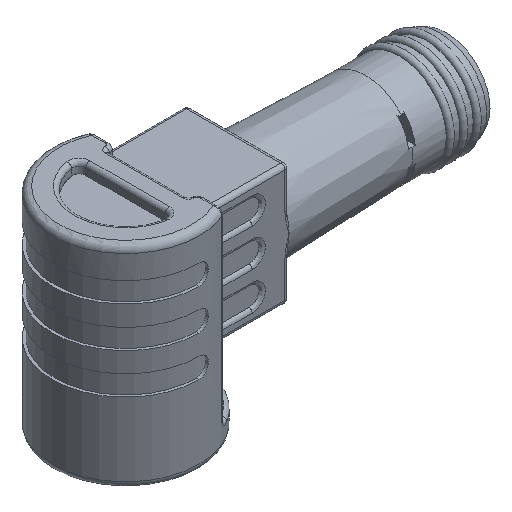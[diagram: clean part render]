
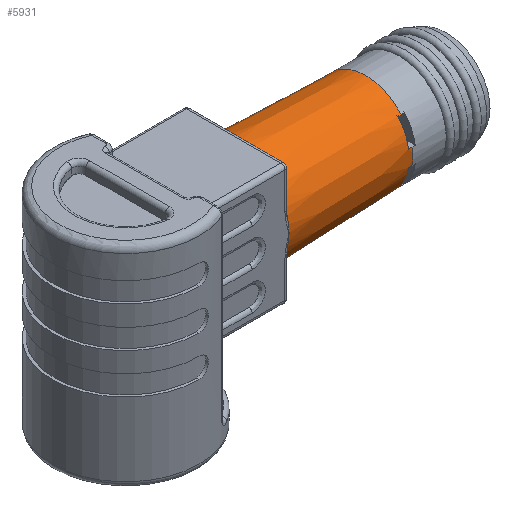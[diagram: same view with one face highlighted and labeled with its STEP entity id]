
A CAD part, isometric view. The second image highlights one B-rep face of the part: STEP entity #5931.
In plain terms, the highlighted conical face has half-angle 1.827 degrees and reference radius 3.651 mm.
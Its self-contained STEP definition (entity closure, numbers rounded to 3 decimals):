
#4858=CARTESIAN_POINT('',(8.347,-3.503,-3.02));
#4859=VERTEX_POINT('',#4858);
#4883=CARTESIAN_POINT('',(8.347,3.503,-3.02));
#4884=VERTEX_POINT('',#4883);
#5050=CARTESIAN_POINT('',(8.347,-3.803,-4.465));
#5051=VERTEX_POINT('',#5050);
#5059=CARTESIAN_POINT('',(8.347,0.0,-4.5));
#5060=DIRECTION('',(-1.0,0.0,0.0));
#5061=DIRECTION('',(0.0,0.0,-1.0));
#5062=AXIS2_PLACEMENT_3D('',#5059,#5060,#5061);
#5063=CIRCLE('',#5062,3.803);
#5064=EDGE_CURVE('',#5051,#4859,#5063,.T.);
#5172=CARTESIAN_POINT('',(8.347,3.803,-4.465));
#5173=VERTEX_POINT('',#5172);
#5197=CARTESIAN_POINT('',(8.347,0.0,-4.5));
#5198=DIRECTION('',(-1.0,0.0,0.0));
#5199=DIRECTION('',(0.0,0.0,-1.0));
#5200=AXIS2_PLACEMENT_3D('',#5197,#5198,#5199);
#5201=CIRCLE('',#5200,3.803);
#5202=EDGE_CURVE('',#4884,#5173,#5201,.T.);
#5245=CARTESIAN_POINT('',(8.347,-3.503,-5.98));
#5246=VERTEX_POINT('',#5245);
#5324=CARTESIAN_POINT('',(8.347,3.503,-5.98));
#5325=VERTEX_POINT('',#5324);
#5494=CARTESIAN_POINT('',(8.347,-3.803,-4.535));
#5495=VERTEX_POINT('',#5494);
#5505=CARTESIAN_POINT('',(8.347,0.0,-4.5));
#5506=DIRECTION('',(-1.0,0.0,0.0));
#5507=DIRECTION('',(0.0,0.0,-1.0));
#5508=AXIS2_PLACEMENT_3D('',#5505,#5506,#5507);
#5509=CIRCLE('',#5508,3.803);
#5510=EDGE_CURVE('',#5246,#5495,#5509,.T.);
#5608=CARTESIAN_POINT('',(8.347,3.803,-4.535));
#5609=VERTEX_POINT('',#5608);
#5617=CARTESIAN_POINT('',(8.347,0.0,-4.5));
#5618=DIRECTION('',(-1.0,0.0,0.0));
#5619=DIRECTION('',(0.0,0.0,-1.0));
#5620=AXIS2_PLACEMENT_3D('',#5617,#5618,#5619);
#5621=CIRCLE('',#5620,3.803);
#5622=EDGE_CURVE('',#5609,#5325,#5621,.T.);
#5658=CARTESIAN_POINT('',(8.347,-3.803,-4.535));
#5659=CARTESIAN_POINT('',(8.353,-3.803,-4.512));
#5660=CARTESIAN_POINT('',(8.353,-3.803,-4.487));
#5661=CARTESIAN_POINT('',(8.347,-3.803,-4.465));
#5662=B_SPLINE_CURVE_WITH_KNOTS('',3,(#5658,#5659,#5660,#5661),.UNSPECIFIED.,.F.,.U.,(4,4),(0.881,0.888),.UNSPECIFIED.);
#5663=EDGE_CURVE('',#5495,#5051,#5662,.T.);
#5699=CARTESIAN_POINT('',(8.347,3.803,-4.465));
#5700=CARTESIAN_POINT('',(8.353,3.803,-4.487));
#5701=CARTESIAN_POINT('',(8.353,3.803,-4.512));
#5702=CARTESIAN_POINT('',(8.347,3.803,-4.535));
#5703=B_SPLINE_CURVE_WITH_KNOTS('',3,(#5699,#5700,#5701,#5702),.UNSPECIFIED.,.F.,.U.,(4,4),(-0.888,-0.882),.UNSPECIFIED.);
#5704=EDGE_CURVE('',#5173,#5609,#5703,.T.);
#5762=CARTESIAN_POINT('',(8.347,0.0,-4.5));
#5763=DIRECTION('',(-1.0,0.0,0.0));
#5764=DIRECTION('',(0.0,0.0,-1.0));
#5765=AXIS2_PLACEMENT_3D('',#5762,#5763,#5764);
#5766=CIRCLE('',#5765,3.803);
#5767=EDGE_CURVE('',#5325,#5246,#5766,.T.);
#5772=CARTESIAN_POINT('',(13.097,0.0,-4.5));
#5773=DIRECTION('',(-1.0,0.0,0.));
#5774=DIRECTION('',(0.0,0.0,-1.0));
#5775=AXIS2_PLACEMENT_3D('',#5772,#5773,#5774);
#5776=CONICAL_SURFACE('',#5775,3.652,1.827);
#5777=CARTESIAN_POINT('',(17.847,-3.448,-3.9));
#5778=VERTEX_POINT('',#5777);
#5779=CARTESIAN_POINT('',(17.597,-3.456,-3.9));
#5780=VERTEX_POINT('',#5779);
#5781=CARTESIAN_POINT('',(17.847,-3.448,-3.9));
#5782=DIRECTION('',(-0.999,-0.032,0.0));
#5783=VECTOR('',#5782,0.25);
#5784=LINE('',#5781,#5783);
#5785=EDGE_CURVE('',#5778,#5780,#5784,.T.);
#5786=ORIENTED_EDGE('',*,*,#5785,.T.);
#5787=CARTESIAN_POINT('',(17.597,-2.649,-2.2));
#5788=VERTEX_POINT('',#5787);
#5789=CARTESIAN_POINT('',(17.597,0.0,-4.5));
#5790=DIRECTION('',(-1.0,0.0,0.0));
#5791=DIRECTION('',(0.0,0.0,-1.0));
#5792=AXIS2_PLACEMENT_3D('',#5789,#5790,#5791);
#5793=CIRCLE('',#5792,3.508);
#5794=EDGE_CURVE('',#5780,#5788,#5793,.T.);
#5795=ORIENTED_EDGE('',*,*,#5794,.T.);
#5796=CARTESIAN_POINT('',(17.847,-2.638,-2.2));
#5797=VERTEX_POINT('',#5796);
#5798=CARTESIAN_POINT('',(17.597,-2.649,-2.2));
#5799=DIRECTION('',(0.999,0.042,0.));
#5800=VECTOR('',#5799,0.25);
#5801=LINE('',#5798,#5800);
#5802=EDGE_CURVE('',#5788,#5797,#5801,.T.);
#5803=ORIENTED_EDGE('',*,*,#5802,.T.);
#5804=CARTESIAN_POINT('',(17.847,2.638,-2.2));
#5805=VERTEX_POINT('',#5804);
#5806=CARTESIAN_POINT('',(17.847,0.0,-4.5));
#5807=DIRECTION('',(1.0,0.0,0.0));
#5808=DIRECTION('',(0.0,0.0,-1.0));
#5809=AXIS2_PLACEMENT_3D('',#5806,#5807,#5808);
#5810=CIRCLE('',#5809,3.5);
#5811=EDGE_CURVE('',#5805,#5797,#5810,.T.);
#5812=ORIENTED_EDGE('',*,*,#5811,.F.);
#5813=CARTESIAN_POINT('',(17.597,2.649,-2.2));
#5814=VERTEX_POINT('',#5813);
#5815=CARTESIAN_POINT('',(17.847,2.638,-2.2));
#5816=DIRECTION('',(-0.999,0.042,0.));
#5817=VECTOR('',#5816,0.25);
#5818=LINE('',#5815,#5817);
#5819=EDGE_CURVE('',#5805,#5814,#5818,.T.);
#5820=ORIENTED_EDGE('',*,*,#5819,.T.);
#5821=CARTESIAN_POINT('',(17.597,3.456,-3.9));
#5822=VERTEX_POINT('',#5821);
#5823=CARTESIAN_POINT('',(17.597,0.0,-4.5));
#5824=DIRECTION('',(-1.0,0.0,0.0));
#5825=DIRECTION('',(0.0,0.0,-1.0));
#5826=AXIS2_PLACEMENT_3D('',#5823,#5824,#5825);
#5827=CIRCLE('',#5826,3.508);
#5828=EDGE_CURVE('',#5814,#5822,#5827,.T.);
#5829=ORIENTED_EDGE('',*,*,#5828,.T.);
#5830=CARTESIAN_POINT('',(17.847,3.448,-3.9));
#5831=VERTEX_POINT('',#5830);
#5832=CARTESIAN_POINT('',(17.597,3.456,-3.9));
#5833=DIRECTION('',(0.999,-0.032,0.0));
#5834=VECTOR('',#5833,0.25);
#5835=LINE('',#5832,#5834);
#5836=EDGE_CURVE('',#5822,#5831,#5835,.T.);
#5837=ORIENTED_EDGE('',*,*,#5836,.T.);
#5838=CARTESIAN_POINT('',(17.847,3.448,-5.1));
#5839=VERTEX_POINT('',#5838);
#5840=CARTESIAN_POINT('',(17.847,0.0,-4.5));
#5841=DIRECTION('',(1.0,0.0,0.0));
#5842=DIRECTION('',(0.0,0.0,-1.0));
#5843=AXIS2_PLACEMENT_3D('',#5840,#5841,#5842);
#5844=CIRCLE('',#5843,3.5);
#5845=EDGE_CURVE('',#5839,#5831,#5844,.T.);
#5846=ORIENTED_EDGE('',*,*,#5845,.F.);
#5847=CARTESIAN_POINT('',(17.597,3.456,-5.1));
#5848=VERTEX_POINT('',#5847);
#5849=CARTESIAN_POINT('',(17.847,3.448,-5.1));
#5850=DIRECTION('',(-0.999,0.032,0.));
#5851=VECTOR('',#5850,0.25);
#5852=LINE('',#5849,#5851);
#5853=EDGE_CURVE('',#5839,#5848,#5852,.T.);
#5854=ORIENTED_EDGE('',*,*,#5853,.T.);
#5855=CARTESIAN_POINT('',(17.597,2.649,-6.8));
#5856=VERTEX_POINT('',#5855);
#5857=CARTESIAN_POINT('',(17.597,0.0,-4.5));
#5858=DIRECTION('',(-1.0,0.0,0.0));
#5859=DIRECTION('',(0.0,0.0,-1.0));
#5860=AXIS2_PLACEMENT_3D('',#5857,#5858,#5859);
#5861=CIRCLE('',#5860,3.508);
#5862=EDGE_CURVE('',#5848,#5856,#5861,.T.);
#5863=ORIENTED_EDGE('',*,*,#5862,.T.);
#5864=CARTESIAN_POINT('',(17.847,2.638,-6.8));
#5865=VERTEX_POINT('',#5864);
#5866=CARTESIAN_POINT('',(17.597,2.649,-6.8));
#5867=DIRECTION('',(0.999,-0.042,0.0));
#5868=VECTOR('',#5867,0.25);
#5869=LINE('',#5866,#5868);
#5870=EDGE_CURVE('',#5856,#5865,#5869,.T.);
#5871=ORIENTED_EDGE('',*,*,#5870,.T.);
#5872=CARTESIAN_POINT('',(17.847,-2.638,-6.8));
#5873=VERTEX_POINT('',#5872);
#5874=CARTESIAN_POINT('',(17.847,0.0,-4.5));
#5875=DIRECTION('',(1.0,0.0,0.0));
#5876=DIRECTION('',(0.0,0.0,-1.0));
#5877=AXIS2_PLACEMENT_3D('',#5874,#5875,#5876);
#5878=CIRCLE('',#5877,3.5);
#5879=EDGE_CURVE('',#5873,#5865,#5878,.T.);
#5880=ORIENTED_EDGE('',*,*,#5879,.F.);
#5881=CARTESIAN_POINT('',(17.597,-2.649,-6.8));
#5882=VERTEX_POINT('',#5881);
#5883=CARTESIAN_POINT('',(17.847,-2.638,-6.8));
#5884=DIRECTION('',(-0.999,-0.042,0.0));
#5885=VECTOR('',#5884,0.25);
#5886=LINE('',#5883,#5885);
#5887=EDGE_CURVE('',#5873,#5882,#5886,.T.);
#5888=ORIENTED_EDGE('',*,*,#5887,.T.);
#5889=CARTESIAN_POINT('',(17.597,-3.456,-5.1));
#5890=VERTEX_POINT('',#5889);
#5891=CARTESIAN_POINT('',(17.597,0.0,-4.5));
#5892=DIRECTION('',(-1.0,0.0,0.0));
#5893=DIRECTION('',(0.0,0.0,-1.0));
#5894=AXIS2_PLACEMENT_3D('',#5891,#5892,#5893);
#5895=CIRCLE('',#5894,3.508);
#5896=EDGE_CURVE('',#5882,#5890,#5895,.T.);
#5897=ORIENTED_EDGE('',*,*,#5896,.T.);
#5898=CARTESIAN_POINT('',(17.847,-3.448,-5.1));
#5899=VERTEX_POINT('',#5898);
#5900=CARTESIAN_POINT('',(17.597,-3.456,-5.1));
#5901=DIRECTION('',(0.999,0.032,0.));
#5902=VECTOR('',#5901,0.25);
#5903=LINE('',#5900,#5902);
#5904=EDGE_CURVE('',#5890,#5899,#5903,.T.);
#5905=ORIENTED_EDGE('',*,*,#5904,.T.);
#5906=CARTESIAN_POINT('',(17.847,0.0,-4.5));
#5907=DIRECTION('',(1.0,0.0,0.0));
#5908=DIRECTION('',(0.0,0.0,-1.0));
#5909=AXIS2_PLACEMENT_3D('',#5906,#5907,#5908);
#5910=CIRCLE('',#5909,3.5);
#5911=EDGE_CURVE('',#5778,#5899,#5910,.T.);
#5912=ORIENTED_EDGE('',*,*,#5911,.F.);
#5913=EDGE_LOOP('',(#5786,#5795,#5803,#5812,#5820,#5829,#5837,#5846,#5854,#5863,#5871,#5880,#5888,#5897,#5905,#5912));
#5914=FACE_OUTER_BOUND('',#5913,.T.);
#5915=ORIENTED_EDGE('',*,*,#5663,.F.);
#5916=ORIENTED_EDGE('',*,*,#5510,.F.);
#5917=ORIENTED_EDGE('',*,*,#5767,.F.);
#5918=ORIENTED_EDGE('',*,*,#5622,.F.);
#5919=ORIENTED_EDGE('',*,*,#5704,.F.);
#5920=ORIENTED_EDGE('',*,*,#5202,.F.);
#5921=CARTESIAN_POINT('',(8.347,0.0,-4.5));
#5922=DIRECTION('',(-1.0,0.0,0.0));
#5923=DIRECTION('',(0.0,0.0,-1.0));
#5924=AXIS2_PLACEMENT_3D('',#5921,#5922,#5923);
#5925=CIRCLE('',#5924,3.803);
#5926=EDGE_CURVE('',#4859,#4884,#5925,.T.);
#5927=ORIENTED_EDGE('',*,*,#5926,.F.);
#5928=ORIENTED_EDGE('',*,*,#5064,.F.);
#5929=EDGE_LOOP('',(#5915,#5916,#5917,#5918,#5919,#5920,#5927,#5928));
#5930=FACE_BOUND('',#5929,.T.);
#5931=ADVANCED_FACE('',(#5914,#5930),#5776,.T.);
